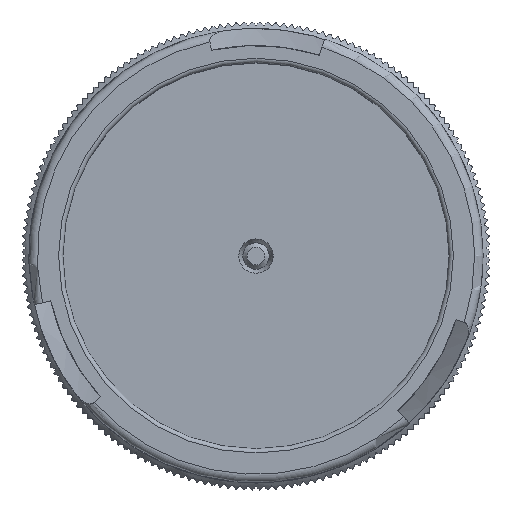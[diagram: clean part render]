
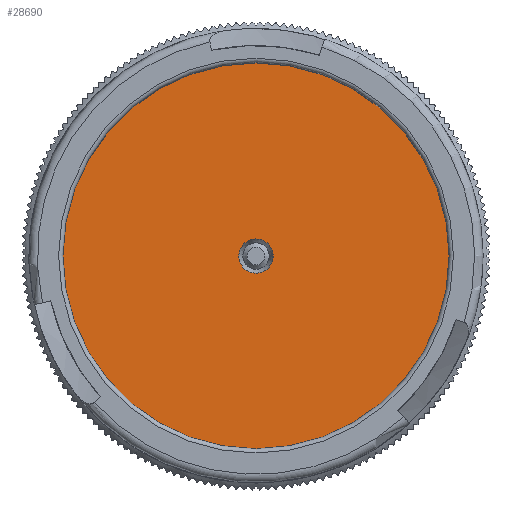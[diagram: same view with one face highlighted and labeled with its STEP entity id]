
A CAD part, top view. The second image highlights one B-rep face of the part: STEP entity #28690.
In plain terms, the highlighted planar face has unit normal (0, 0, 1).
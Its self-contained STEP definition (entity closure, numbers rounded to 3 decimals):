
#984 = DIRECTION ( 'NONE',  ( 1., 0., 0. ) ) ;
#1336 = CARTESIAN_POINT ( 'NONE',  ( 0., 0., -29.4 ) ) ;
#2283 = ORIENTED_EDGE ( 'NONE', *, *, #27468, .T. ) ;
#5282 = DIRECTION ( 'NONE',  ( 0., 0., 1. ) ) ;
#6153 = EDGE_CURVE ( 'NONE', #26380, #26380, #30202, .T. ) ;
#6549 = VERTEX_POINT ( 'NONE', #31075 ) ;
#6685 = CARTESIAN_POINT ( 'NONE',  ( 0., 0., -29.4 ) ) ;
#7816 = DIRECTION ( 'NONE',  ( 0., 0., -1. ) ) ;
#12953 = AXIS2_PLACEMENT_3D ( 'NONE', #6685, #39272, #30765 ) ;
#15000 = AXIS2_PLACEMENT_3D ( 'NONE', #36447, #7816, #44978 ) ;
#19674 = ORIENTED_EDGE ( 'NONE', *, *, #6153, .T. ) ;
#22598 = FACE_BOUND ( 'NONE', #37198, .T. ) ;
#25989 = PLANE ( 'NONE',  #38557 ) ;
#26380 = VERTEX_POINT ( 'NONE', #30558 ) ;
#27468 = EDGE_CURVE ( 'NONE', #6549, #6549, #29050, .T. ) ;
#27783 = FACE_OUTER_BOUND ( 'NONE', #28606, .T. ) ;
#28606 = EDGE_LOOP ( 'NONE', ( #19674 ) ) ;
#28690 = ADVANCED_FACE ( 'NONE', ( #22598, #27783 ), #25989, .T. ) ;
#29050 = CIRCLE ( 'NONE', #15000, 2.016 ) ;
#30202 = CIRCLE ( 'NONE', #12953, 22.7 ) ;
#30558 = CARTESIAN_POINT ( 'NONE',  ( 22.7, 0., -29.4 ) ) ;
#30765 = DIRECTION ( 'NONE',  ( 1., 0., 0. ) ) ;
#31075 = CARTESIAN_POINT ( 'NONE',  ( 2.016, 0., -29.4 ) ) ;
#36447 = CARTESIAN_POINT ( 'NONE',  ( 0., 0., -29.4 ) ) ;
#37198 = EDGE_LOOP ( 'NONE', ( #2283 ) ) ;
#38557 = AXIS2_PLACEMENT_3D ( 'NONE', #1336, #5282, #984 ) ;
#39272 = DIRECTION ( 'NONE',  ( 0., 0., 1. ) ) ;
#44978 = DIRECTION ( 'NONE',  ( 1., 0., 0. ) ) ;
